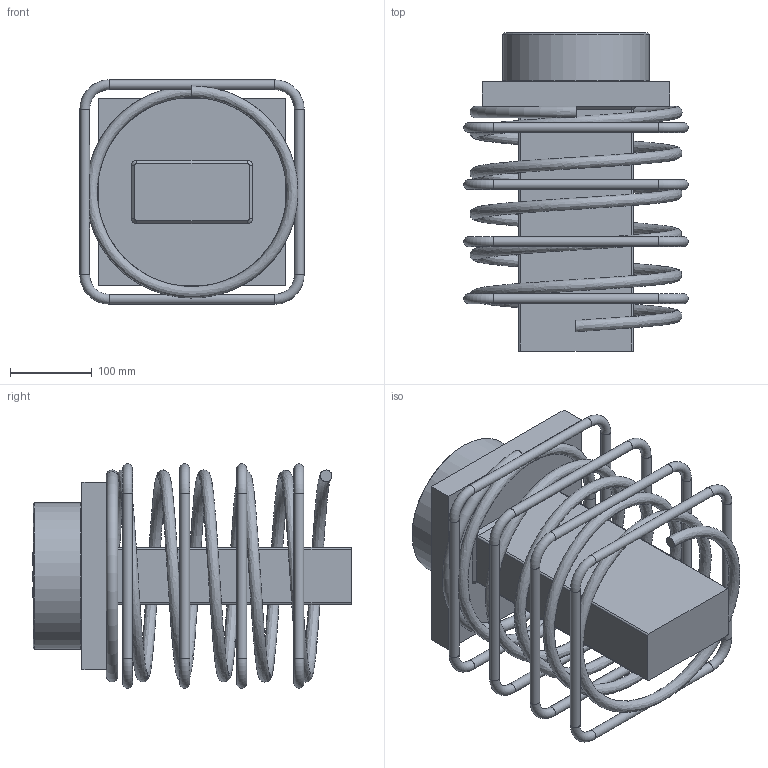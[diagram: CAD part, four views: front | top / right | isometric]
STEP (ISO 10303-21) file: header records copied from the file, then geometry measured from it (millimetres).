
FILE_DESCRIPTION(/* description */ (''),/* implementation_level */ '2;1');
FILE_NAME(/* name */ 'Z:\04 Publications\05 Give-out\BBR\6_3D_Models\BBR VT CONA CMB\02 x 406\BBR VT CONA CMB SP_02 x 406_Anchorage A Assembly.stp',/* time_stamp */ '2017-05-09T11:55:11+02:00',/* author */ ('IP'),/* organization */ (''),/* preprocessor_version */ 'ST-DEVELOPER v16.1',/* originating_system */ 'Autodesk Inventor 2016',/* authorisation */ '');
FILE_SCHEMA (('AUTOMOTIVE_DESIGN { 1 0 10303 214 3 1 1 }'));
Length unit declared in the file: millimetre
Products named in the file (1): BBR VT CONA CMB SP_02 x 406_Anchorage A Assembly
Bounding box: 275 x 390.1 x 275 mm (x, y, z)
Volume: 7219108.6 mm3; surface area: 642346.6 mm2
Topology: 2 solids, 2 shells, 708 faces, 1894 edges, 1251 vertices
Faces by surface type: plane 345, bspline 319, cylinder 21, torus 17, cone 6
Full cylindrical faces by diameter (mm): 12 x16, 180 x1
Entity records: 27118 total; most frequent: CARTESIAN_POINT 10973, ORIENTED_EDGE 3720, DIRECTION 2046, EDGE_CURVE 1857, VERTEX_POINT 1250, LINE 1156, VECTOR 1156, EDGE_LOOP 824
